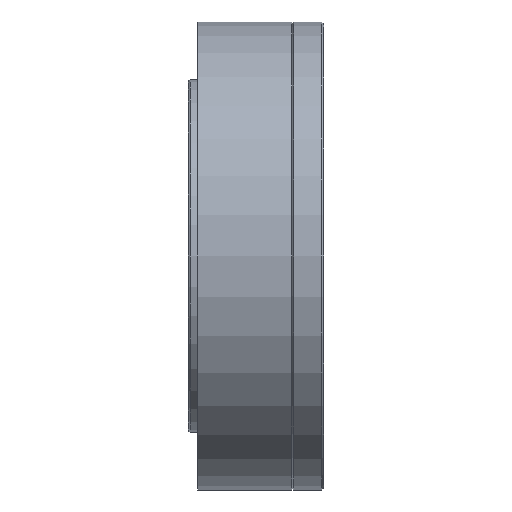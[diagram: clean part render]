
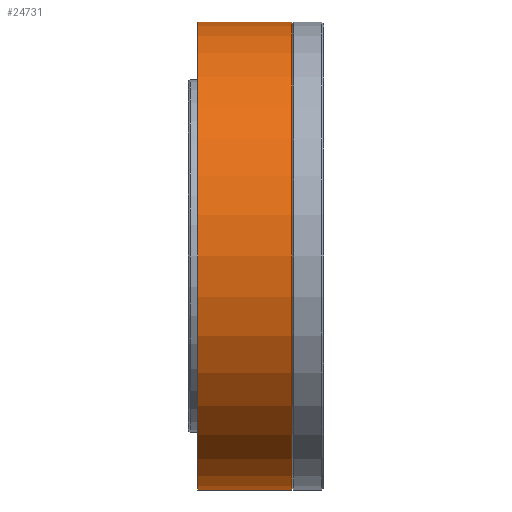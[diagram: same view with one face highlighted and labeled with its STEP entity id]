
A CAD part, front view. The second image highlights one B-rep face of the part: STEP entity #24731.
In plain terms, the highlighted cylindrical face has radius 71 mm (diameter 142 mm), a partial arc.
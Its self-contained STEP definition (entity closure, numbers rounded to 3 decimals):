
#220 = CARTESIAN_POINT ( 'NONE',  ( 28.6, 0., -71. ) ) ;
#2029 = CARTESIAN_POINT ( 'NONE',  ( 28.6, 0., 0. ) ) ;
#2062 = CARTESIAN_POINT ( 'NONE',  ( 28.6, 0., 71. ) ) ;
#2342 = EDGE_CURVE ( 'NONE', #3283, #26166, #8162, .T. ) ;
#3283 = VERTEX_POINT ( 'NONE', #2062 ) ;
#4572 = DIRECTION ( 'NONE',  ( -1., 0., 0. ) ) ;
#5205 = DIRECTION ( 'NONE',  ( -1., 0., 0. ) ) ;
#5739 = AXIS2_PLACEMENT_3D ( 'NONE', #24505, #12562, #8414 ) ;
#7368 = EDGE_CURVE ( 'NONE', #17380, #26166, #19411, .T. ) ;
#7929 = FACE_OUTER_BOUND ( 'NONE', #9291, .T. ) ;
#8162 = LINE ( 'NONE', #15529, #14860 ) ;
#8414 = DIRECTION ( 'NONE',  ( 0., 0., 1. ) ) ;
#9291 = EDGE_LOOP ( 'NONE', ( #22780, #11694, #21038, #9814 ) ) ;
#9814 = ORIENTED_EDGE ( 'NONE', *, *, #7368, .F. ) ;
#10252 = DIRECTION ( 'NONE',  ( 0., 0., 1. ) ) ;
#11043 = AXIS2_PLACEMENT_3D ( 'NONE', #2029, #16259, #12052 ) ;
#11316 = CARTESIAN_POINT ( 'NONE',  ( 0., 0., 71. ) ) ;
#11694 = ORIENTED_EDGE ( 'NONE', *, *, #25827, .T. ) ;
#12052 = DIRECTION ( 'NONE',  ( 0., 0., 1. ) ) ;
#12562 = DIRECTION ( 'NONE',  ( -1., 0., 0. ) ) ;
#12970 = VECTOR ( 'NONE', #16090, 1000. ) ;
#13241 = VERTEX_POINT ( 'NONE', #220 ) ;
#14860 = VECTOR ( 'NONE', #5205, 1000. ) ;
#15529 = CARTESIAN_POINT ( 'NONE',  ( 0., 0., 71. ) ) ;
#15828 = AXIS2_PLACEMENT_3D ( 'NONE', #18531, #4572, #10252 ) ;
#16090 = DIRECTION ( 'NONE',  ( -1., 0., 0. ) ) ;
#16259 = DIRECTION ( 'NONE',  ( -1., 0., 0. ) ) ;
#16338 = EDGE_CURVE ( 'NONE', #13241, #17380, #25066, .T. ) ;
#17196 = CARTESIAN_POINT ( 'NONE',  ( 0., 0., -71. ) ) ;
#17380 = VERTEX_POINT ( 'NONE', #17196 ) ;
#18531 = CARTESIAN_POINT ( 'NONE',  ( 0., 0., 0. ) ) ;
#19399 = CYLINDRICAL_SURFACE ( 'NONE', #15828, 71. ) ;
#19411 = CIRCLE ( 'NONE', #5739, 71. ) ;
#20072 = CARTESIAN_POINT ( 'NONE',  ( 0., 0., -71. ) ) ;
#21038 = ORIENTED_EDGE ( 'NONE', *, *, #2342, .T. ) ;
#22780 = ORIENTED_EDGE ( 'NONE', *, *, #16338, .F. ) ;
#24505 = CARTESIAN_POINT ( 'NONE',  ( 0., 0., 0. ) ) ;
#24731 = ADVANCED_FACE ( 'NONE', ( #7929 ), #19399, .T. ) ;
#25044 = CIRCLE ( 'NONE', #11043, 71. ) ;
#25066 = LINE ( 'NONE', #20072, #12970 ) ;
#25827 = EDGE_CURVE ( 'NONE', #13241, #3283, #25044, .T. ) ;
#26166 = VERTEX_POINT ( 'NONE', #11316 ) ;
